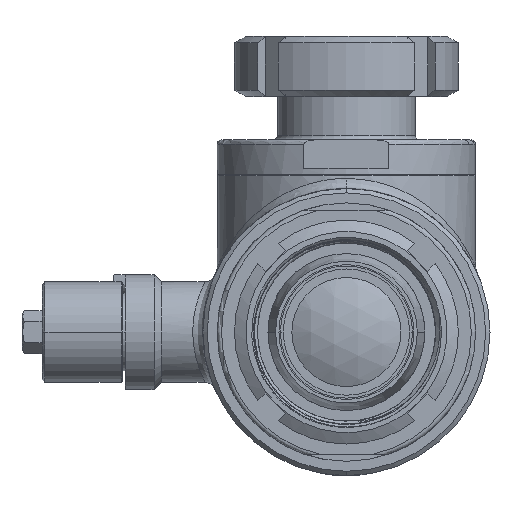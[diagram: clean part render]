
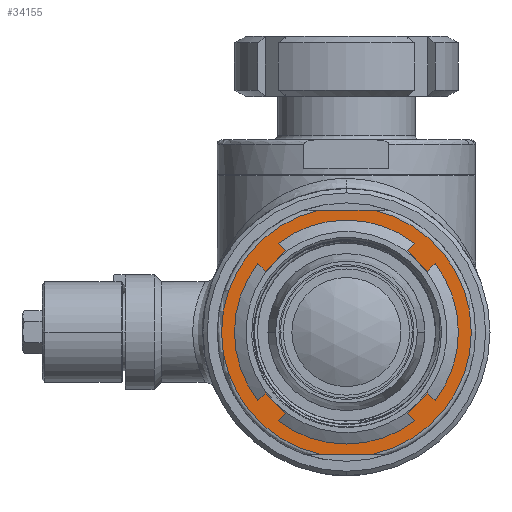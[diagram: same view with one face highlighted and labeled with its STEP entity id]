
A CAD part, left-side view. The second image highlights one B-rep face of the part: STEP entity #34155.
In plain terms, the highlighted planar face has unit normal (-1, 0, 0).
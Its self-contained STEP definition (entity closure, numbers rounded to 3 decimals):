
#9061=CARTESIAN_POINT('',(-67.,0.,0.));
#9062=DIRECTION('',(-1.,0.,0.));
#9063=DIRECTION('',(0.,-0.213,-0.977));
#9064=AXIS2_PLACEMENT_3D('',#9061,#9062,#9063);
#9089=CARTESIAN_POINT('',(-67.,-9.274,42.5));
#9110=CARTESIAN_POINT('',(-67.,-9.274,-42.5));
#9151=CARTESIAN_POINT('',(-67.,9.274,42.5));
#9176=CARTESIAN_POINT('',(-67.,0.,0.));
#9177=DIRECTION('',(-1.,0.,0.));
#9178=DIRECTION('',(0.,0.213,0.977));
#9179=AXIS2_PLACEMENT_3D('',#9176,#9177,#9178);
#9204=CARTESIAN_POINT('',(-67.,9.274,-42.5));
#9209=DIRECTION('',(0.,-1.,0.));
#9210=VECTOR('',#9209,18.547);
#9211=CARTESIAN_POINT('',(-67.,9.274,42.5));
#9212=LINE('',#9211,#9210);
#9216=DIRECTION('',(0.,-1.,0.));
#9217=VECTOR('',#9216,18.547);
#9218=CARTESIAN_POINT('',(-67.,9.274,-42.5));
#9219=LINE('',#9218,#9217);
#9223=CARTESIAN_POINT('',(-67.,0.,0.));
#9224=DIRECTION('',(1.,0.,0.));
#9225=DIRECTION('',(0.,1.,0.));
#9226=AXIS2_PLACEMENT_3D('',#9223,#9224,#9225);
#9255=CARTESIAN_POINT('',(-67.,0.,0.));
#9256=DIRECTION('',(-1.,0.,0.));
#9257=DIRECTION('',(0.,1.,0.));
#9258=AXIS2_PLACEMENT_3D('',#9255,#9256,#9257);
#26619=VERTEX_POINT('',#9110);
#26620=VERTEX_POINT('',#9204);
#26621=VERTEX_POINT('',#9151);
#26622=VERTEX_POINT('',#9089);
#26627=CARTESIAN_POINT('',(-67.,25.5,0.));
#26628=CARTESIAN_POINT('',(-67.,-25.5,0.));
#26629=VERTEX_POINT('',#26627);
#26630=VERTEX_POINT('',#26628);
#34136=CARTESIAN_POINT('',(-67.,0.,0.));
#34137=DIRECTION('',(-1.,0.,0.));
#34138=DIRECTION('',(0.,-1.,0.));
#34139=AXIS2_PLACEMENT_3D('',#34136,#34137,#34138);
#34140=PLANE('',#34139);
#34141=ORIENTED_EDGE('',*,*,#34129,.F.);
#34143=ORIENTED_EDGE('',*,*,#34142,.T.);
#34144=ORIENTED_EDGE('',*,*,#34109,.F.);
#34146=ORIENTED_EDGE('',*,*,#34145,.F.);
#34147=EDGE_LOOP('',(#34141,#34143,#34144,#34146));
#34148=FACE_OUTER_BOUND('',#34147,.F.);
#34150=ORIENTED_EDGE('',*,*,#34149,.F.);
#34152=ORIENTED_EDGE('',*,*,#34151,.T.);
#34153=EDGE_LOOP('',(#34150,#34152));
#34154=FACE_BOUND('',#34153,.F.);
#34155=ADVANCED_FACE('',(#34148,#34154),#34140,.T.);
#9065=CIRCLE('',#9064,43.5);
#9180=CIRCLE('',#9179,43.5);
#9227=CIRCLE('',#9226,25.5);
#9259=CIRCLE('',#9258,25.5);
#34109=EDGE_CURVE('',#26619,#26622,#9065,.T.);
#34129=EDGE_CURVE('',#26621,#26620,#9180,.T.);
#34142=EDGE_CURVE('',#26621,#26622,#9212,.T.);
#34145=EDGE_CURVE('',#26620,#26619,#9219,.T.);
#34149=EDGE_CURVE('',#26629,#26630,#9227,.T.);
#34151=EDGE_CURVE('',#26629,#26630,#9259,.T.);
